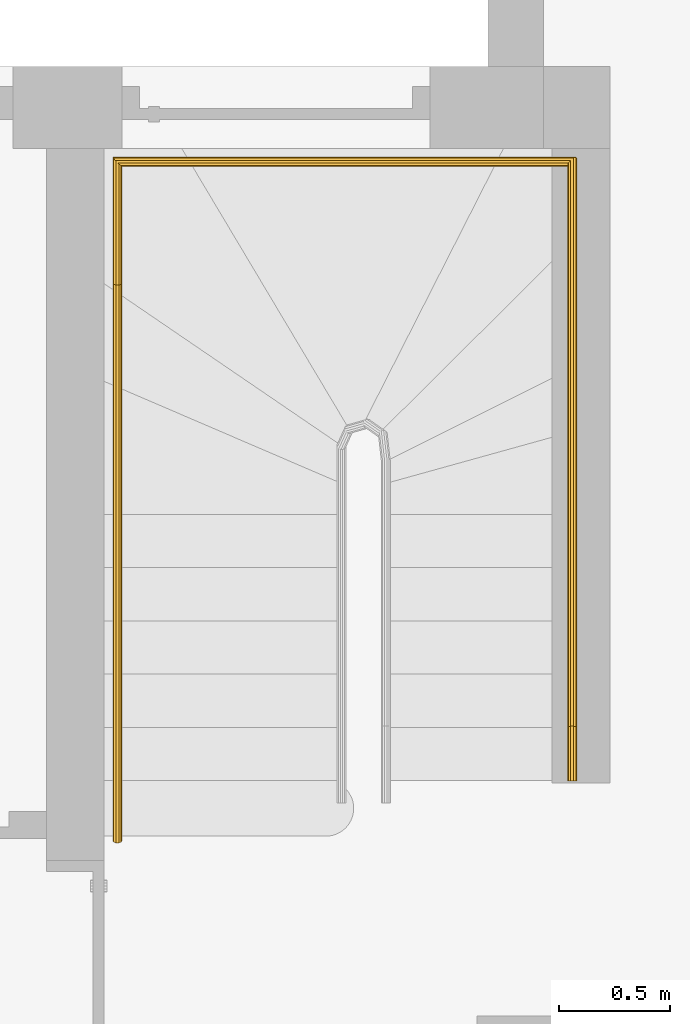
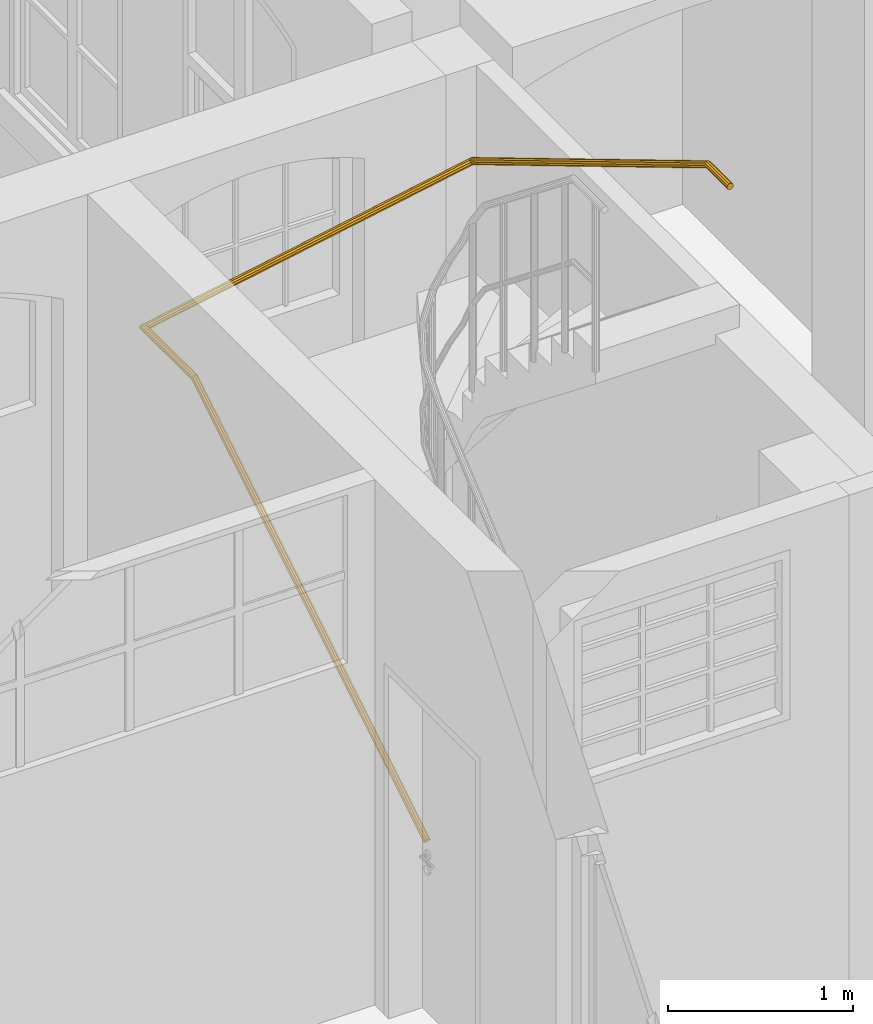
"""IFC4 building model written with IfcOpenShell, lengths in metres."""

from ifc_helpers import new_model, entity, si_unit, converted_unit, derived_unit, frame, origin, place, context, subcontext, project, spatial, faceted_brep, material, element, save


model = new_model("IFC4")

# Units and contexts
model_context = context("Model", 3, precision=1e-05, world=origin())
body_context = subcontext(model_context, "Body", "Model", "MODEL_VIEW")
ifc_project = project(units=[si_unit("LENGTHUNIT", "METRE"), si_unit("AREAUNIT", "SQUARE_METRE"), si_unit("VOLUMEUNIT", "CUBIC_METRE"), si_unit("MASSUNIT", "GRAM", prefix="KILO"), converted_unit("PLANEANGLEUNIT", "DEGREE", entity("IfcPlaneAngleMeasure", 0.0174532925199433), si_unit("PLANEANGLEUNIT", "RADIAN"), dimensions=[0, 0, 0, 0, 0, 0, 0]), derived_unit("THERMALTRANSMITTANCEUNIT", [(si_unit("POWERUNIT", "WATT"), 1), (si_unit("THERMODYNAMICTEMPERATUREUNIT", "KELVIN"), -1), (si_unit("LENGTHUNIT", "METRE"), -2)]), derived_unit("VOLUMETRICFLOWRATEUNIT", [(si_unit("LENGTHUNIT", "METRE"), 3), (converted_unit("TIMEUNIT", "hour", entity("IfcTimeMeasure", 3600.0), si_unit("TIMEUNIT", "SECOND"), dimensions=[0, 0, 1, 0, 0, 0, 0]), -1), (si_unit("LENGTHUNIT", "METRE"), -1)])], contexts=[model_context])

# Building, storeys
building_placement = place(None, origin())
building = spatial("IfcBuilding", under=ifc_project, at=building_placement, Name="Bestandsgebäude A - Sporthalle / Wohnhaus (TB 100-499)   ANPASSEN !!!", CompositionType="ELEMENT")
storey_1_placement = place(building_placement, origin())
storey_1 = spatial("IfcBuildingStorey", under=building, at=storey_1_placement, Name="Geb. A Erdgeschoss (TB 200-249)", CompositionType="ELEMENT", Elevation=0.0)
storey_2_placement = place(storey_1_placement, origin())
storey_2 = spatial("IfcBuildingStorey", under=storey_1, at=storey_2_placement, Name="Architektur (TB 200-209)", CompositionType="PARTIAL")

# Railing
ifc_material = material(Name="steel")
railing_placement = place(storey_2_placement, frame((-5.18102924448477, 5.74955983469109, 0.961227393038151)))
element("IfcRailing", 1, at=railing_placement, inside=storey_2, material=ifc_material, Name="handrail with wall bracket", PredefinedType="HANDRAIL", context=body_context, shape_type="Brep", body=[
    faceted_brep([(0.0, 0.0104400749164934, 0.0170588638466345), (0.00401622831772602, 0.00398775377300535, 0.0276018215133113), (0.0145308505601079, 0.0, 0.0341177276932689), (0.027527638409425, 0.0, 0.0341177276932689), (0.0380422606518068, 0.00398775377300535, 0.0276018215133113), (0.0420584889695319, 0.0104400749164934, 0.0170588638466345), (0.0380422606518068, 0.0168923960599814, 0.00651590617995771), (0.027527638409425, 0.0208801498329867, 0.0), (0.0145308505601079, 0.0208801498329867, 0.0), (0.00401622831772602, 0.0168923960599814, 0.00651590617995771), (0.0, 2.52096816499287, 1.55350944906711), (0.00401622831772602, 2.51748596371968, 1.56587012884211), (0.0145308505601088, 2.51533384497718, 1.57350944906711), (0.027527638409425, 2.51533384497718, 1.57350944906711), (0.0380422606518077, 2.51748596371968, 1.56587012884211), (0.0420584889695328, 2.52096816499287, 1.55350944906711), (0.0380422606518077, 2.52445036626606, 1.54114876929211), (0.027527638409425, 2.52660248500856, 1.53350944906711), (0.0145308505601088, 2.52660248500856, 1.53350944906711), (0.00401622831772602, 2.52445036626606, 1.54114876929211), (0.0, 3.0911152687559, 1.55350944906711), (0.000611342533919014, 3.09085806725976, 1.55162793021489), (0.00143859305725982, 3.08889177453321, 1.55793698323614), (0.00561674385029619, 3.08806452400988, 1.53998592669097), (0.00257763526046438, 3.09003081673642, 1.54557630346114), (0.0040162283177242, 3.08942557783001, 1.54114876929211), (0.0107645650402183, 3.08368689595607, 1.53624581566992), (0.014530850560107, 3.0804841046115, 1.53350944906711), (0.0165091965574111, 3.07853907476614, 1.53350944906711), (0.0291281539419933, 3.06592011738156, 1.53467229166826), (0.0228722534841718, 3.07228317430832, 1.53350944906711), (0.0275276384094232, 3.06770618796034, 1.53350944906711), (0.0342759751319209, 3.06017548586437, 1.53841240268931), (0.0380422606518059, 3.05597255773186, 1.54114876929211), (0.0386536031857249, 3.05502766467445, 1.54303028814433), (0.041447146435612, 3.05002226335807, 1.55539096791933), (0.040619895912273, 3.05198855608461, 1.5490819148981), (0.0420584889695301, 3.04976506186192, 1.55350944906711), (0.0394808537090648, 3.05084951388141, 1.56144259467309), (0.0380422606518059, 3.05145475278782, 1.56587012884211), (0.0364417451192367, 3.05281580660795, 1.56703297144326), (0.0255492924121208, 3.06234125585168, 1.57350944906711), (0.0312939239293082, 3.05719343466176, 1.57077308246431), (0.0275276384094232, 3.06039622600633, 1.57350944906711), (0.0191862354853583, 3.06859715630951, 1.57350944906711), (0.014530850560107, 3.07317414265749, 1.57350944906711), (0.0129303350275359, 3.07496021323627, 1.57234660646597), (0.00340488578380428, 3.08585266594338, 1.56398860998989), (0.00778251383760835, 3.08070484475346, 1.56860649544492), (0.0040162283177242, 3.08490777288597, 1.56587012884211), (0.000354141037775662, 3.09146940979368, 1.54966637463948), (0.00204383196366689, 3.08745318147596, 1.56255285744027), (0.0109853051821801, 3.07693855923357, 1.57198506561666), (0.0237632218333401, 3.06394177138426, 1.57436021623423), (0.0354968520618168, 3.05342714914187, 1.56877108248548), (0.0417043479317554, 3.04941092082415, 1.55735252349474), (0.0400146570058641, 3.05342714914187, 1.54446604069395), (0.0310731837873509, 3.06394177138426, 1.53503383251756), (0.0182952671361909, 3.07693855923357, 1.53265868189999), (0.00656163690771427, 3.08745318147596, 1.53824781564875), (2.08725444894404, 3.09146940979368, 1.93757801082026), (2.08750011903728, 3.09126233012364, 1.93697543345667), (2.08228970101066, 3.0896504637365, 1.94234919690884), (2.08824934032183, 3.07626843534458, 1.91742036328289), (2.0902395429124, 3.08170062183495, 1.92130940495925), (2.0887663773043, 3.07693855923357, 1.91751646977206), (2.08328019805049, 3.0698280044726, 1.91649670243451), (2.07873864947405, 3.06394177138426, 1.91565252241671), (2.07806978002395, 3.06339962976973, 1.91592882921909), (2.0652009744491, 3.05322006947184, 1.92155456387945), (2.07164140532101, 3.05818921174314, 1.91858436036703), (2.06576619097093, 3.05342714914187, 1.92101138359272), (2.05976878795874, 3.05122986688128, 1.9267749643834), (2.05480404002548, 3.04941092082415, 1.93154615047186), (2.05455836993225, 3.04961800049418, 1.93214872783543), (2.05020707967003, 3.05396929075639, 1.94366471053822), (2.05219728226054, 3.05160820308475, 1.93793998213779), (2.05003936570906, 3.05342714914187, 1.94323290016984), (2.05181894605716, 3.05917970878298, 1.94781475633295), (2.05329211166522, 3.06394177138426, 1.95160769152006), (2.05380914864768, 3.06461189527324, 1.95170379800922), (2.06398870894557, 3.0774807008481, 1.95319533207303), (2.05877829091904, 3.07105232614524, 1.95262745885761), (2.06331983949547, 3.07693855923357, 1.95347163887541), (2.07041708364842, 3.08269111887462, 1.95053980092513), (2.07629229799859, 3.08745318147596, 1.9481127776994), (2.07685751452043, 3.08766026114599, 1.94756959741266), (2.09185140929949, 3.08691103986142, 1.92545945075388), (2.08986120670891, 3.08927212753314, 1.9311841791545), (2.09201912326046, 3.08745318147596, 1.92589126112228), (2.09205848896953, 3.08666536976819, 1.92486379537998), (2.07752763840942, 3.08817729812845, 1.94726054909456), (2.0645308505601, 3.0781495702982, 1.95325441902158), (2.05401622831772, 3.06517711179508, 1.95210845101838), (2.05, 3.05421496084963, 1.94426036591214), (2.05401622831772, 3.04945028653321, 1.93270786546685), (2.0645308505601, 3.05270303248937, 1.92186361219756), (2.07752763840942, 3.06273076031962, 1.91586974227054), (2.0880422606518, 3.07570321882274, 1.91701571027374), (2.0880422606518, 3.09143004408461, 1.93641629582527), (2.09205848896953, 0.520440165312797, 3.45877260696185), (2.0880422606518, 0.523852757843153, 3.47113328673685), (2.07752763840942, 0.525961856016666, 3.47877260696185), (2.0645308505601, 0.525961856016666, 3.47877260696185), (2.05401622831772, 0.523852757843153, 3.47113328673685), (2.05, 0.520440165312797, 3.45877260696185), (2.05401622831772, 0.517027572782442, 3.44641192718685), (2.0645308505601, 0.514918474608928, 3.43877260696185), (2.07752763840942, 0.514918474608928, 3.43877260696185), (2.0880422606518, 0.517027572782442, 3.44641192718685), (2.09205848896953, 0.279440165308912, 3.45877260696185), (2.0880422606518, 0.279440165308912, 3.44641192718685), (2.07752763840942, 0.279440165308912, 3.43877260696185), (2.0645308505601, 0.279440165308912, 3.43877260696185), (2.05401622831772, 0.279440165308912, 3.44641192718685), (2.05, 0.279440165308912, 3.45877260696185), (2.05401622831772, 0.279440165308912, 3.47113328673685), (2.0645308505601, 0.279440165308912, 3.47877260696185), (2.07752763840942, 0.279440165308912, 3.47877260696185), (2.0880422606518, 0.279440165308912, 3.47113328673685)], [[[0, 1, 2, 3, 4, 5, 6, 7, 8, 9]], [[0, 10, 11, 1]], [[1, 11, 12, 2]], [[2, 12, 13, 3]], [[3, 13, 14, 4]], [[4, 14, 15, 5]], [[5, 15, 16, 6]], [[6, 16, 17, 7]], [[7, 17, 18, 8]], [[8, 18, 19, 9]], [[9, 19, 10, 0]], [[20, 21, 22]], [[23, 24, 25]], [[26, 27, 28]], [[29, 30, 31]], [[32, 33, 34]], [[35, 36, 37]], [[38, 39, 40]], [[41, 42, 43]], [[44, 45, 46]], [[47, 48, 49]], [[10, 20, 22, 47, 49, 11]], [[11, 49, 48, 46, 45, 12]], [[12, 45, 44, 41, 43, 13]], [[13, 43, 42, 40, 39, 14]], [[14, 39, 38, 35, 37, 15]], [[15, 37, 36, 34, 33, 16]], [[16, 33, 32, 29, 31, 17]], [[17, 31, 30, 28, 27, 18]], [[18, 27, 26, 23, 25, 19]], [[19, 25, 24, 21, 20, 10]], [[50, 21, 24]], [[47, 22, 51]], [[48, 52, 46]], [[41, 44, 53]], [[42, 54, 40]], [[35, 38, 55]], [[36, 56, 34]], [[29, 32, 57]], [[30, 58, 28]], [[23, 26, 59]], [[60, 61, 62]], [[63, 64, 65]], [[66, 67, 68]], [[69, 70, 71]], [[72, 73, 74]], [[75, 76, 77]], [[78, 79, 80]], [[81, 82, 83]], [[84, 85, 86]], [[87, 88, 89]], [[50, 60, 62, 86, 85, 51, 22, 21]], [[51, 85, 84, 81, 83, 52, 48, 47]], [[52, 83, 82, 80, 79, 53, 44, 46]], [[53, 79, 78, 75, 77, 54, 42, 41]], [[54, 77, 76, 74, 73, 55, 38, 40]], [[55, 73, 72, 69, 71, 56, 36, 35]], [[56, 71, 70, 68, 67, 57, 32, 34]], [[57, 67, 66, 63, 65, 58, 30, 29]], [[58, 65, 64, 87, 89, 59, 26, 28]], [[59, 89, 88, 61, 60, 50, 24, 23]], [[90, 87, 64]], [[86, 62, 91]], [[84, 92, 81]], [[80, 82, 93]], [[78, 94, 75]], [[74, 76, 95]], [[72, 96, 69]], [[68, 70, 97]], [[66, 98, 63]], [[61, 88, 99]], [[90, 100, 101, 99, 88, 87]], [[99, 101, 102, 91, 62, 61]], [[91, 102, 103, 92, 84, 86]], [[92, 103, 104, 93, 82, 81]], [[93, 104, 105, 94, 78, 80]], [[94, 105, 106, 95, 76, 75]], [[95, 106, 107, 96, 72, 74]], [[96, 107, 108, 97, 70, 69]], [[97, 108, 109, 98, 66, 68]], [[98, 109, 100, 90, 64, 63]], [[110, 111, 112, 113, 114, 115, 116, 117, 118, 119]], [[100, 110, 119, 101]], [[101, 119, 118, 102]], [[102, 118, 117, 103]], [[103, 117, 116, 104]], [[104, 116, 115, 105]], [[105, 115, 114, 106]], [[106, 114, 113, 107]], [[107, 113, 112, 108]], [[108, 112, 111, 109]], [[109, 111, 110, 100]]], orient=[[False], [False], [False], [False], [False], [False], [False], [False], [False], [False], [False], [False], [False], [False], [False], [False], [False], [False], [False], [False], [False], [False], [False], [False], [False], [False], [False], [False], [False], [False], [False], [False], [False], [False], [False], [False], [False], [False], [False], [False], [False], [False], [False], [False], [False], [False], [False], [False], [False], [False], [False], [False], [False], [False], [False], [False], [False], [False], [False], [False], [False], [False], [False], [False], [False], [False], [False], [False], [False], [False], [False], [False], [False], [False], [False], [False], [False], [False], [False], [False], [False], [False], [False], [False], [False], [False], [False], [False], [False], [False], [False], [False]]),
])

save(model, "model.ifc")
